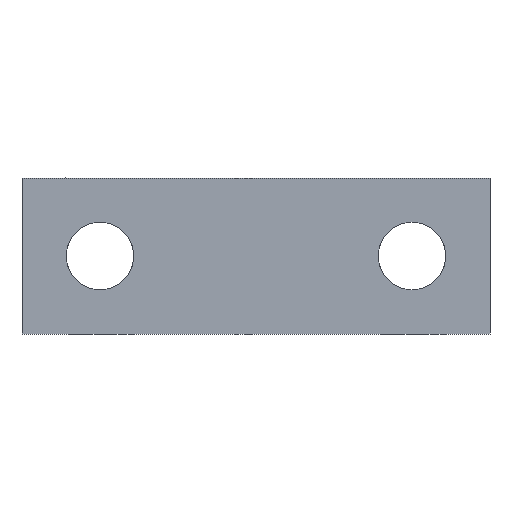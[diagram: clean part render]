
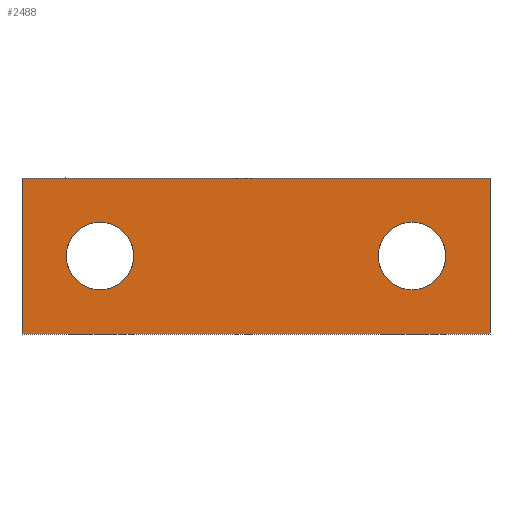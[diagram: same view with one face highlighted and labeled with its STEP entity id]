
A CAD part, front view. The second image highlights one B-rep face of the part: STEP entity #2488.
In plain terms, the highlighted planar face has unit normal (0, -1, 0).
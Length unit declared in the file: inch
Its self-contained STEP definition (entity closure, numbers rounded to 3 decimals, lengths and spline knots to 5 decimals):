
#43 = CARTESIAN_POINT ( 'NONE',  ( -0.5, 0., 0.10827 ) ) ;
#604 = CARTESIAN_POINT ( 'NONE',  ( -0.5, 0., -0.10827 ) ) ;
#1026 = CARTESIAN_POINT ( 'NONE',  ( -0.75, 0., -0.25 ) ) ;
#1042 = CARTESIAN_POINT ( 'NONE',  ( 0.75, 0., -0.25 ) ) ;
#1218 = CARTESIAN_POINT ( 'NONE',  ( 0.5, 0., -0.10827 ) ) ;
#1232 = CARTESIAN_POINT ( 'NONE',  ( 0.5, 0., 0.10827 ) ) ;
#1271 = CARTESIAN_POINT ( 'NONE',  ( -0.75, 0., 0.25 ) ) ;
#1278 = CARTESIAN_POINT ( 'NONE',  ( 0.75, 0., 0.25 ) ) ;
#1329 = VERTEX_POINT ( 'NONE', #604 ) ;
#1371 = VERTEX_POINT ( 'NONE', #43 ) ;
#1387 = VERTEX_POINT ( 'NONE', #1278 ) ;
#1394 = VERTEX_POINT ( 'NONE', #1271 ) ;
#1429 = VERTEX_POINT ( 'NONE', #1232 ) ;
#1443 = VERTEX_POINT ( 'NONE', #1218 ) ;
#1640 = ORIENTED_EDGE ( 'NONE', *, *, #19396, .F. ) ;
#1641 = ORIENTED_EDGE ( 'NONE', *, *, #9003, .F. ) ;
#1642 = ORIENTED_EDGE ( 'NONE', *, *, #19390, .F. ) ;
#1643 = ORIENTED_EDGE ( 'NONE', *, *, #18048, .T. ) ;
#1644 = ORIENTED_EDGE ( 'NONE', *, *, #19391, .T. ) ;
#1645 = ORIENTED_EDGE ( 'NONE', *, *, #18084, .T. ) ;
#2005 = VERTEX_POINT ( 'NONE', #1042 ) ;
#2012 = VERTEX_POINT ( 'NONE', #1026 ) ;
#2488 = ADVANCED_FACE ( 'NONE', ( #17012, #17013, #17015 ), #12056, .T. ) ;
#2993 = DIRECTION ( 'NONE',  ( 0., 0., 1. ) ) ;
#2994 = DIRECTION ( 'NONE',  ( 0., 1., 0. ) ) ;
#2995 = CARTESIAN_POINT ( 'NONE',  ( -0.5, 0., 0. ) ) ;
#3104 = DIRECTION ( 'NONE',  ( 0., 0., 1. ) ) ;
#3105 = DIRECTION ( 'NONE',  ( 0., 1., 0. ) ) ;
#3106 = CARTESIAN_POINT ( 'NONE',  ( 0.5, 0., 0. ) ) ;
#9003 = EDGE_CURVE ( 'NONE', #1394, #1387, #15689, .T. ) ;
#10053 = DIRECTION ( 'NONE',  ( 0., 0., 1. ) ) ;
#10054 = CARTESIAN_POINT ( 'NONE',  ( -0.75, 0., 0.25 ) ) ;
#10057 = DIRECTION ( 'NONE',  ( -1., 0., 0. ) ) ;
#10058 = CARTESIAN_POINT ( 'NONE',  ( -0.75, 0., -0.25 ) ) ;
#10064 = DIRECTION ( 'NONE',  ( 0., 0., 1. ) ) ;
#10065 = DIRECTION ( 'NONE',  ( 0., 1., 0. ) ) ;
#10066 = CARTESIAN_POINT ( 'NONE',  ( 0.5, 0., 0. ) ) ;
#10067 = DIRECTION ( 'NONE',  ( 0., 0., -1. ) ) ;
#10069 = CARTESIAN_POINT ( 'NONE',  ( 0.75, 0., 0.25 ) ) ;
#10070 = DIRECTION ( 'NONE',  ( 0., 0., 1. ) ) ;
#10071 = DIRECTION ( 'NONE',  ( 0., 1., 0. ) ) ;
#10072 = CARTESIAN_POINT ( 'NONE',  ( -0.5, 0., 0. ) ) ;
#12053 = DIRECTION ( 'NONE',  ( 0., 0., -1. ) ) ;
#12054 = DIRECTION ( 'NONE',  ( 0., -1., 0. ) ) ;
#12055 = CARTESIAN_POINT ( 'NONE',  ( 0.75, 0., -0.25 ) ) ;
#12056 = PLANE ( 'NONE',  #13697 ) ;
#13026 = ORIENTED_EDGE ( 'NONE', *, *, #19394, .F. ) ;
#13255 = CIRCLE ( 'NONE', #19068, 0.10827 ) ;
#13325 = LINE ( 'NONE', #10069, #13327 ) ;
#13326 = CIRCLE ( 'NONE', #19080, 0.10827 ) ;
#13327 = VECTOR ( 'NONE', #10067, 39.37008 ) ;
#13328 = CIRCLE ( 'NONE', #19081, 0.10827 ) ;
#13332 = LINE ( 'NONE', #10058, #13333 ) ;
#13333 = VECTOR ( 'NONE', #10057, 39.37008 ) ;
#13336 = LINE ( 'NONE', #10054, #13337 ) ;
#13337 = VECTOR ( 'NONE', #10053, 39.37008 ) ;
#13697 = AXIS2_PLACEMENT_3D ( 'NONE', #12055, #12054, #12053 ) ;
#13929 = ORIENTED_EDGE ( 'NONE', *, *, #19389, .T. ) ;
#15568 = DIRECTION ( 'NONE',  ( 1., 0., 0. ) ) ;
#15569 = CARTESIAN_POINT ( 'NONE',  ( -0.75, 0., 0.25 ) ) ;
#15689 = LINE ( 'NONE', #15569, #15690 ) ;
#15690 = VECTOR ( 'NONE', #15568, 39.37008 ) ;
#16428 = CIRCLE ( 'NONE', #19056, 0.10827 ) ;
#16750 = EDGE_LOOP ( 'NONE', ( #13929, #1645 ) ) ;
#16752 = EDGE_LOOP ( 'NONE', ( #1644, #1643 ) ) ;
#16753 = EDGE_LOOP ( 'NONE', ( #1642, #1641, #1640, #13026 ) ) ;
#17012 = FACE_BOUND ( 'NONE', #16750, .T. ) ;
#17013 = FACE_BOUND ( 'NONE', #16752, .T. ) ;
#17015 = FACE_OUTER_BOUND ( 'NONE', #16753, .T. ) ;
#18048 = EDGE_CURVE ( 'NONE', #1443, #1429, #16428, .T. ) ;
#18084 = EDGE_CURVE ( 'NONE', #1329, #1371, #13255, .T. ) ;
#19056 = AXIS2_PLACEMENT_3D ( 'NONE', #3106, #3105, #3104 ) ;
#19068 = AXIS2_PLACEMENT_3D ( 'NONE', #2995, #2994, #2993 ) ;
#19080 = AXIS2_PLACEMENT_3D ( 'NONE', #10072, #10071, #10070 ) ;
#19081 = AXIS2_PLACEMENT_3D ( 'NONE', #10066, #10065, #10064 ) ;
#19389 = EDGE_CURVE ( 'NONE', #1371, #1329, #13326, .T. ) ;
#19390 = EDGE_CURVE ( 'NONE', #1387, #2005, #13325, .T. ) ;
#19391 = EDGE_CURVE ( 'NONE', #1429, #1443, #13328, .T. ) ;
#19394 = EDGE_CURVE ( 'NONE', #2005, #2012, #13332, .T. ) ;
#19396 = EDGE_CURVE ( 'NONE', #2012, #1394, #13336, .T. ) ;
